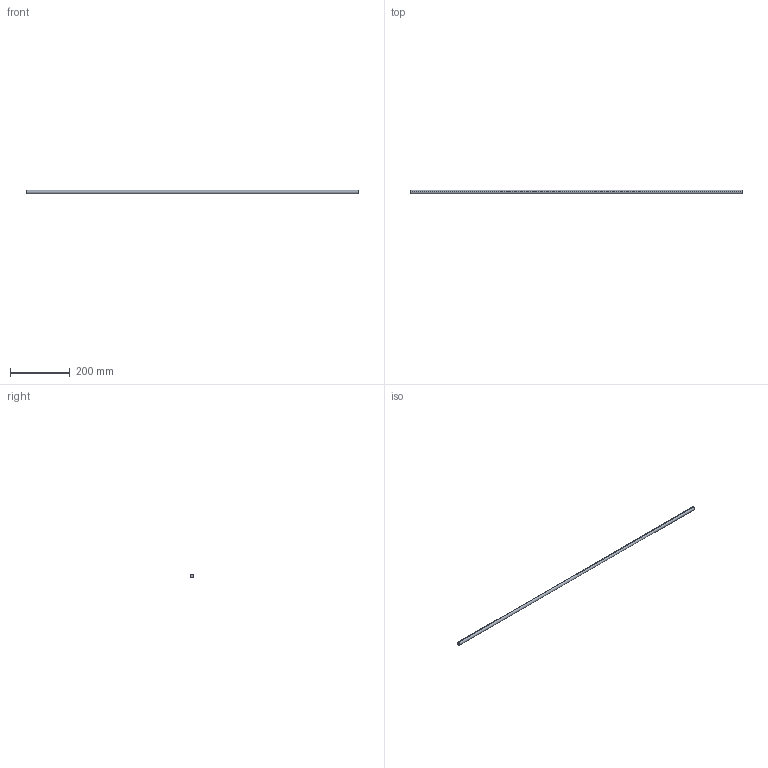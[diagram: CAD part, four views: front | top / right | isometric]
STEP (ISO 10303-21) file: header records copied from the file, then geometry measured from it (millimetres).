
FILE_DESCRIPTION (( 'STEP AP214' ), '1' );
FILE_NAME ('Querreling_Frontblende_Innenlade_KS19_KAB-1200.step', '2010-09-22T15:05:36', ( 'grass' ), ( '' ), 'SwSTEP 2.0', 'SolidWorks 2010', '' );
FILE_SCHEMA (( 'AUTOMOTIVE_DESIGN' ));
Length unit declared in the file: millimetre
Products named in the file (1): Querreling_Frontblende_Innenlade_KS19_KAB-1200
Bounding box: 1109 x 11 x 11 mm (x, y, z)
Volume: 105391.8 mm3; surface area: 38514.4 mm2
Topology: 1 solids, 1 shells, 4 faces, 6 edges, 4 vertices
Faces by surface type: cylinder 2, plane 2
Entity records: 128 total; most frequent: DIRECTION 20, CARTESIAN_POINT 15, ORIENTED_EDGE 12, AXIS2_PLACEMENT_3D 9, EDGE_CURVE 6, VERTEX_POINT 4, EDGE_LOOP 4, FACE_OUTER_BOUND 4
